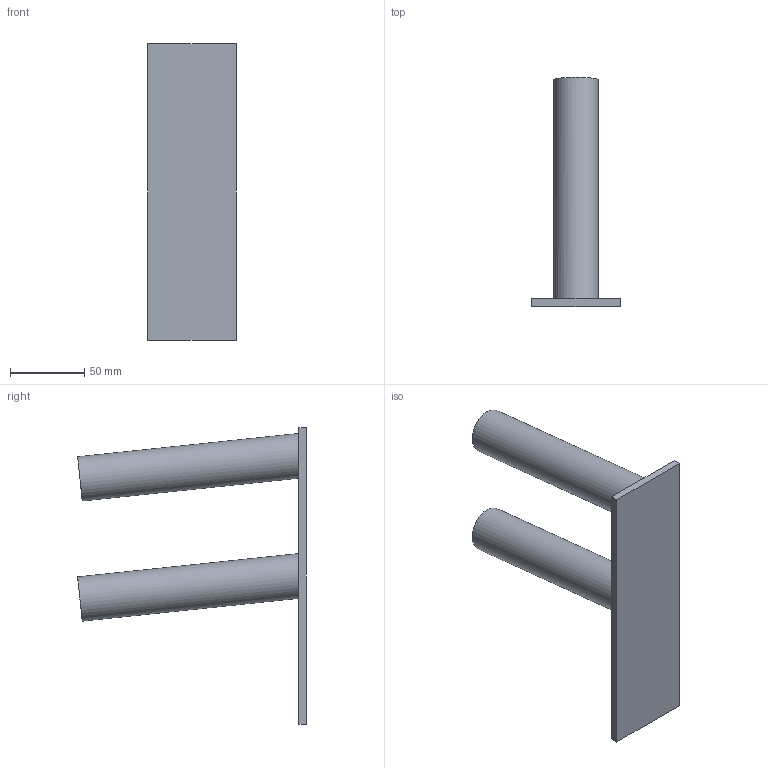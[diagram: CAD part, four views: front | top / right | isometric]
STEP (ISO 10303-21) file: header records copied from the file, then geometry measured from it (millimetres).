
FILE_DESCRIPTION(/* description */ ('Assembly3-tricycle cargo bike B'),/* implementation_level */ '2;1');
FILE_NAME(/* name */ 'C:\Users\Apardo\Documents\Proyectos\Dietrich\Proyecto 1\tricycle cargo bike B\STEP\Assembly3-tricycle cargo bike B.stp',/* time_stamp */ '2021-02-07T09:24:00-04:00',/* author */ ('Apardo'),/* organization */ ('23'),/* preprocessor_version */ 'ST-DEVELOPER v18',/* originating_system */ 'Autodesk Inventor 2020',/* authorisation */ '');
FILE_SCHEMA (('AUTOMOTIVE_DESIGN { 1 0 10303 214 3 1 1 }'));
Length unit declared in the file: millimetre
Products named in the file (4): Assembly3-tricycle cargo bike B; wl_lacb_3.1_Head tube-plate; wl_lacb_3.2_Handlebar; wl_lacb_3.3_Security tube
Assembly tree (3 placements, depth 2):
  Assembly3-tricycle cargo bike B
    wl_lacb_3.1_Head tube-plate
    wl_lacb_3.2_Handlebar
    wl_lacb_3.3_Security tube
Bounding box: 60 x 154.18 x 200 mm (x, y, z)
Volume: 112224 mm3; surface area: 79529.7 mm2
Topology: 3 solids, 3 shells, 14 faces, 30 edges, 22 vertices
Faces by surface type: plane 10, cylinder 4
Full cylindrical faces by diameter (mm): 26 x2, 30 x2
Entity records: 565 total; most frequent: DIRECTION 86, CARTESIAN_POINT 73, ORIENTED_EDGE 60, AXIS2_PLACEMENT_3D 35, EDGE_CURVE 30, VERTEX_POINT 22, EDGE_LOOP 18, LINE 16
